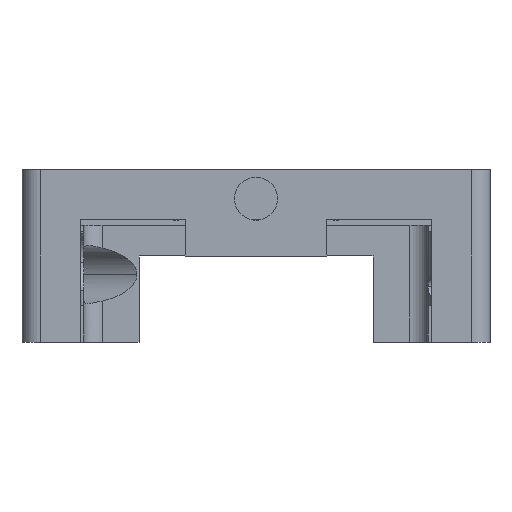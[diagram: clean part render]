
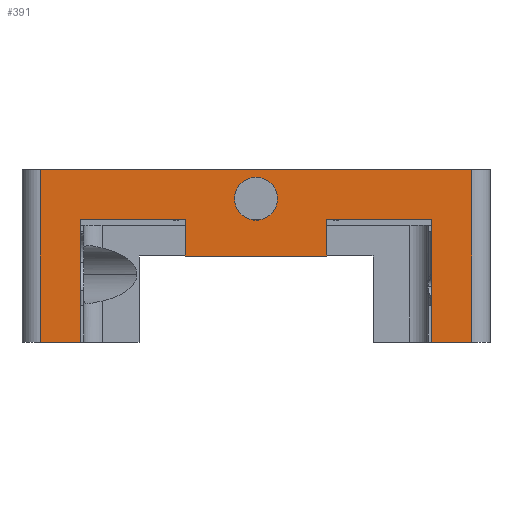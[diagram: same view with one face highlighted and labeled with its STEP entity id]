
A CAD part, front view. The second image highlights one B-rep face of the part: STEP entity #391.
In plain terms, the highlighted planar face has unit normal (0, -1, 0).
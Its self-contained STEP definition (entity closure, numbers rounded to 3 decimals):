
#391=ADVANCED_FACE('',(#817,#600),#2224,.T.);
#600=FACE_OUTER_BOUND('',#868,.F.);
#817=FACE_BOUND('',#867,.F.);
#867=EDGE_LOOP('',(#1230,#1231));
#868=EDGE_LOOP('',(#1232,#1233,#1234,#1235,#1236,#1237,#1238,#1239,#1240,
#1241,#1242,#1243));
#1230=ORIENTED_EDGE('',*,*,#4415,.T.);
#1231=ORIENTED_EDGE('',*,*,#4414,.T.);
#1232=ORIENTED_EDGE('',*,*,#4511,.F.);
#1233=ORIENTED_EDGE('',*,*,#4493,.F.);
#1234=ORIENTED_EDGE('',*,*,#4513,.T.);
#1235=ORIENTED_EDGE('',*,*,#4499,.T.);
#1236=ORIENTED_EDGE('',*,*,#4486,.F.);
#1237=ORIENTED_EDGE('',*,*,#4360,.T.);
#1238=ORIENTED_EDGE('',*,*,#4490,.T.);
#1239=ORIENTED_EDGE('',*,*,#4489,.T.);
#1240=ORIENTED_EDGE('',*,*,#4393,.T.);
#1241=ORIENTED_EDGE('',*,*,#4484,.T.);
#1242=ORIENTED_EDGE('',*,*,#4483,.T.);
#1243=ORIENTED_EDGE('',*,*,#4482,.T.);
#2224=PLANE('',#5573);
#3647=LINE('',#7560,#3965);
#3670=LINE('',#7626,#3988);
#3720=LINE('',#7725,#4038);
#3721=LINE('',#7726,#4039);
#3722=LINE('',#7727,#4040);
#3724=LINE('',#7729,#4042);
#3727=LINE('',#7732,#4045);
#3728=LINE('',#7733,#4046);
#3729=LINE('',#7736,#4047);
#3731=LINE('',#7742,#4049);
#3741=LINE('',#7754,#4059);
#3743=LINE('',#7756,#4061);
#3965=VECTOR('',#5929,10.);
#3988=VECTOR('',#5964,11.5);
#4038=VECTOR('',#6088,10.);
#4039=VECTOR('',#6089,8.5);
#4040=VECTOR('',#6090,3.);
#4042=VECTOR('',#6092,3.25);
#4045=VECTOR('',#6095,3.);
#4046=VECTOR('',#6096,8.5);
#4047=VECTOR('',#6101,14.);
#4049=VECTOR('',#6111,14.);
#4059=VECTOR('',#6125,3.25);
#4061=VECTOR('',#6127,35.);
#4360=EDGE_CURVE('',#5257,#5256,#3647,.T.);
#4393=EDGE_CURVE('',#5224,#5223,#3670,.T.);
#4414=EDGE_CURVE('',#5202,#5201,#4887,.T.);
#4415=EDGE_CURVE('',#5201,#5202,#4888,.T.);
#4482=EDGE_CURVE('',#5133,#5132,#3720,.T.);
#4483=EDGE_CURVE('',#5131,#5133,#3721,.T.);
#4484=EDGE_CURVE('',#5223,#5131,#3722,.T.);
#4486=EDGE_CURVE('',#5257,#5130,#3724,.T.);
#4489=EDGE_CURVE('',#5127,#5224,#3727,.T.);
#4490=EDGE_CURVE('',#5256,#5127,#3728,.T.);
#4493=EDGE_CURVE('',#5126,#5125,#3729,.T.);
#4499=EDGE_CURVE('',#5123,#5130,#3731,.T.);
#4511=EDGE_CURVE('',#5125,#5132,#3741,.T.);
#4513=EDGE_CURVE('',#5126,#5123,#3743,.T.);
#4887=CIRCLE('',#5459,1.75);
#4888=CIRCLE('',#5460,1.75);
#5123=VERTEX_POINT('',#7084);
#5125=VERTEX_POINT('',#7086);
#5126=VERTEX_POINT('',#7087);
#5127=VERTEX_POINT('',#7088);
#5130=VERTEX_POINT('',#7091);
#5131=VERTEX_POINT('',#7092);
#5132=VERTEX_POINT('',#7093);
#5133=VERTEX_POINT('',#7094);
#5201=VERTEX_POINT('',#7162);
#5202=VERTEX_POINT('',#7163);
#5223=VERTEX_POINT('',#7184);
#5224=VERTEX_POINT('',#7185);
#5256=VERTEX_POINT('',#7217);
#5257=VERTEX_POINT('',#7218);
#5459=AXIS2_PLACEMENT_3D('',#7657,#6001,#6002);
#5460=AXIS2_PLACEMENT_3D('',#7658,#6003,#6004);
#5573=AXIS2_PLACEMENT_3D('',#7984,#6442,#6443);
#5929=DIRECTION('',(0.,0.,1.));
#5964=DIRECTION('',(-1.,0.,0.));
#6001=DIRECTION('',(0.,-1.,0.));
#6002=DIRECTION('',(0.,0.,1.));
#6003=DIRECTION('',(0.,-1.,0.));
#6004=DIRECTION('',(0.,0.,-1.));
#6088=DIRECTION('',(0.,0.,-1.));
#6089=DIRECTION('',(-1.,0.,0.));
#6090=DIRECTION('',(0.,0.,1.));
#6092=DIRECTION('',(1.,0.,0.));
#6095=DIRECTION('',(0.,0.,-1.));
#6096=DIRECTION('',(-1.,0.,0.));
#6101=DIRECTION('',(0.,0.,-1.));
#6111=DIRECTION('',(0.,0.,-1.));
#6125=DIRECTION('',(1.,0.,0.));
#6127=DIRECTION('',(1.,0.,0.));
#6442=DIRECTION('',(0.,-1.,0.));
#6443=DIRECTION('',(1.,0.,0.));
#7084=CARTESIAN_POINT('',(22.5,38.3,179.8));
#7086=CARTESIAN_POINT('',(-12.5,38.3,165.8));
#7087=CARTESIAN_POINT('',(-12.5,38.3,179.8));
#7088=CARTESIAN_POINT('',(10.75,38.3,175.8));
#7091=CARTESIAN_POINT('',(22.5,38.3,165.8));
#7092=CARTESIAN_POINT('',(-0.75,38.3,175.8));
#7093=CARTESIAN_POINT('',(-9.25,38.3,165.8));
#7094=CARTESIAN_POINT('',(-9.25,38.3,175.8));
#7162=CARTESIAN_POINT('',(5.,38.3,175.7));
#7163=CARTESIAN_POINT('',(5.,38.3,179.2));
#7184=CARTESIAN_POINT('',(-0.75,38.3,172.8));
#7185=CARTESIAN_POINT('',(10.75,38.3,172.8));
#7217=CARTESIAN_POINT('',(19.25,38.3,175.8));
#7218=CARTESIAN_POINT('',(19.25,38.3,165.8));
#7560=CARTESIAN_POINT('',(19.25,38.3,165.8));
#7626=CARTESIAN_POINT('',(10.75,38.3,172.8));
#7657=CARTESIAN_POINT('',(5.,38.3,177.45));
#7658=CARTESIAN_POINT('',(5.,38.3,177.45));
#7725=CARTESIAN_POINT('',(-9.25,38.3,175.8));
#7726=CARTESIAN_POINT('',(-0.75,38.3,175.8));
#7727=CARTESIAN_POINT('',(-0.75,38.3,172.8));
#7729=CARTESIAN_POINT('',(19.25,38.3,165.8));
#7732=CARTESIAN_POINT('',(10.75,38.3,175.8));
#7733=CARTESIAN_POINT('',(19.25,38.3,175.8));
#7736=CARTESIAN_POINT('',(-12.5,38.3,179.8));
#7742=CARTESIAN_POINT('',(22.5,38.3,179.8));
#7754=CARTESIAN_POINT('',(-12.5,38.3,165.8));
#7756=CARTESIAN_POINT('',(-12.5,38.3,179.8));
#7984=CARTESIAN_POINT('',(-14.38,38.3,165.42));
